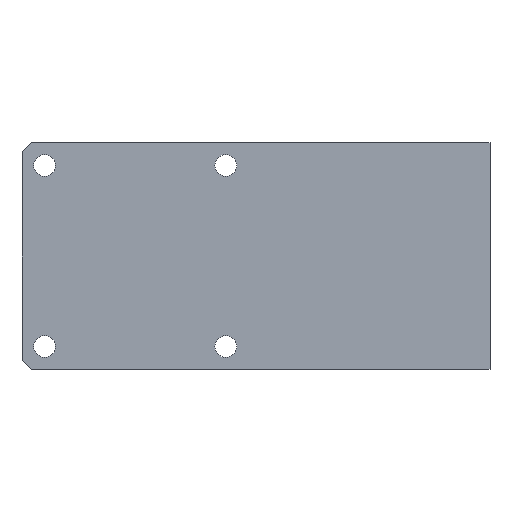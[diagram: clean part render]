
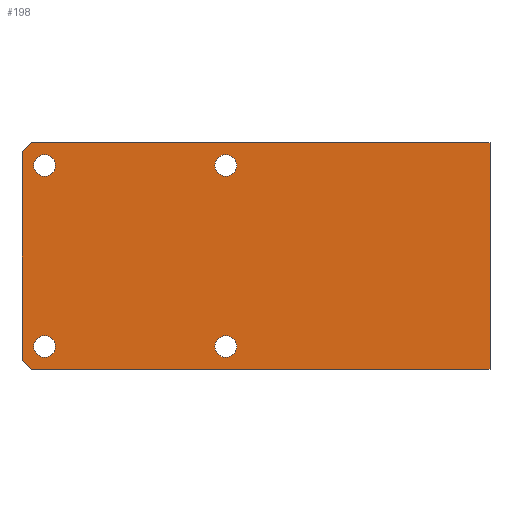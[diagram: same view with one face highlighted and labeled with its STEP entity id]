
A CAD part, front view. The second image highlights one B-rep face of the part: STEP entity #198.
In plain terms, the highlighted planar face has unit normal (0, -1, 0).
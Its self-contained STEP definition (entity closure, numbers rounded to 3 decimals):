
#25 = VECTOR ( 'NONE', #286, 1000. ) ;
#31 = CARTESIAN_POINT ( 'NONE',  ( 0., 0., 12.5 ) ) ;
#37 = CARTESIAN_POINT ( 'NONE',  ( 0., 0., 12.5 ) ) ;
#40 = CARTESIAN_POINT ( 'NONE',  ( 0., 0., -12.5 ) ) ;
#49 = CARTESIAN_POINT ( 'NONE',  ( -37.84, 0., -25.34 ) ) ;
#57 = ORIENTED_EDGE ( 'NONE', *, *, #639, .T. ) ;
#60 = ORIENTED_EDGE ( 'NONE', *, *, #317, .T. ) ;
#69 = ORIENTED_EDGE ( 'NONE', *, *, #498, .T. ) ;
#71 = DIRECTION ( 'NONE',  ( -1., 0., 0. ) ) ;
#75 = VERTEX_POINT ( 'NONE', #439 ) ;
#86 = VECTOR ( 'NONE', #71, 1000. ) ;
#88 = VERTEX_POINT ( 'NONE', #734 ) ;
#93 = CARTESIAN_POINT ( 'NONE',  ( 0., 0., -12.5 ) ) ;
#97 = CARTESIAN_POINT ( 'NONE',  ( -51.68, 0., 12.5 ) ) ;
#120 = DIRECTION ( 'NONE',  ( 0., 0., 1. ) ) ;
#121 = CARTESIAN_POINT ( 'NONE',  ( -49.18, 0., 11.2 ) ) ;
#122 = FACE_BOUND ( 'NONE', #1035, .T. ) ;
#125 = LINE ( 'NONE', #40, #672 ) ;
#132 = DIRECTION ( 'NONE',  ( 1., 0., 0. ) ) ;
#147 = DIRECTION ( 'NONE',  ( 0., 1., 0. ) ) ;
#152 = ORIENTED_EDGE ( 'NONE', *, *, #158, .F. ) ;
#158 = EDGE_CURVE ( 'NONE', #624, #321, #622, .T. ) ;
#174 = CIRCLE ( 'NONE', #312, 1.2 ) ;
#179 = DIRECTION ( 'NONE',  ( 0., 1., 0. ) ) ;
#198 = ADVANCED_FACE ( 'NONE', ( #861, #122, #543, #456, #870 ), #698, .T. ) ;
#213 = ORIENTED_EDGE ( 'NONE', *, *, #992, .T. ) ;
#216 = CARTESIAN_POINT ( 'NONE',  ( -51.68, 0., 11.5 ) ) ;
#219 = ORIENTED_EDGE ( 'NONE', *, *, #738, .T. ) ;
#228 = DIRECTION ( 'NONE',  ( 0., 1., 0. ) ) ;
#232 = DIRECTION ( 'NONE',  ( 0., 0., 1. ) ) ;
#236 = ORIENTED_EDGE ( 'NONE', *, *, #249, .T. ) ;
#244 = AXIS2_PLACEMENT_3D ( 'NONE', #706, #256, #578 ) ;
#249 = EDGE_CURVE ( 'NONE', #1043, #491, #329, .T. ) ;
#252 = CARTESIAN_POINT ( 'NONE',  ( 0., 0., 12.5 ) ) ;
#256 = DIRECTION ( 'NONE',  ( 0., 1., 0. ) ) ;
#257 = EDGE_LOOP ( 'NONE', ( #356, #69, #981, #567, #487, #152 ) ) ;
#262 = CARTESIAN_POINT ( 'NONE',  ( -50.68, 0., -12.5 ) ) ;
#281 = CARTESIAN_POINT ( 'NONE',  ( -29.18, 0., 11.2 ) ) ;
#286 = DIRECTION ( 'NONE',  ( -0.707, 0., -0.707 ) ) ;
#289 = CARTESIAN_POINT ( 'NONE',  ( -29.18, 0., 10. ) ) ;
#292 = CIRCLE ( 'NONE', #244, 1.2 ) ;
#295 = CARTESIAN_POINT ( 'NONE',  ( -29.18, 0., -10. ) ) ;
#296 = DIRECTION ( 'NONE',  ( 0.707, 0., -0.707 ) ) ;
#301 = LINE ( 'NONE', #49, #841 ) ;
#307 = VERTEX_POINT ( 'NONE', #262 ) ;
#312 = AXIS2_PLACEMENT_3D ( 'NONE', #295, #788, #783 ) ;
#317 = EDGE_CURVE ( 'NONE', #75, #512, #621, .T. ) ;
#318 = CARTESIAN_POINT ( 'NONE',  ( -29.18, 0., -11.2 ) ) ;
#321 = VERTEX_POINT ( 'NONE', #93 ) ;
#329 = CIRCLE ( 'NONE', #484, 1.2 ) ;
#331 = AXIS2_PLACEMENT_3D ( 'NONE', #681, #1038, #1044 ) ;
#347 = AXIS2_PLACEMENT_3D ( 'NONE', #635, #228, #466 ) ;
#350 = CIRCLE ( 'NONE', #451, 1.2 ) ;
#356 = ORIENTED_EDGE ( 'NONE', *, *, #768, .T. ) ;
#365 = CIRCLE ( 'NONE', #657, 1.2 ) ;
#372 = LINE ( 'NONE', #688, #25 ) ;
#373 = DIRECTION ( 'NONE',  ( 0., -1., 0. ) ) ;
#382 = CIRCLE ( 'NONE', #347, 1.2 ) ;
#387 = EDGE_CURVE ( 'NONE', #676, #502, #292, .T. ) ;
#412 = VERTEX_POINT ( 'NONE', #1050 ) ;
#421 = CARTESIAN_POINT ( 'NONE',  ( -49.18, 0., -8.8 ) ) ;
#439 = CARTESIAN_POINT ( 'NONE',  ( -49.18, 0., 8.8 ) ) ;
#448 = DIRECTION ( 'NONE',  ( 0., 0., -1. ) ) ;
#451 = AXIS2_PLACEMENT_3D ( 'NONE', #564, #147, #232 ) ;
#452 = CARTESIAN_POINT ( 'NONE',  ( -51.68, 0., -11.5 ) ) ;
#456 = FACE_BOUND ( 'NONE', #888, .T. ) ;
#466 = DIRECTION ( 'NONE',  ( 0., 0., 1. ) ) ;
#484 = AXIS2_PLACEMENT_3D ( 'NONE', #668, #603, #987 ) ;
#487 = ORIENTED_EDGE ( 'NONE', *, *, #677, .F. ) ;
#491 = VERTEX_POINT ( 'NONE', #421 ) ;
#498 = EDGE_CURVE ( 'NONE', #88, #707, #372, .T. ) ;
#502 = VERTEX_POINT ( 'NONE', #767 ) ;
#511 = DIRECTION ( 'NONE',  ( 0., 0., 1. ) ) ;
#512 = VERTEX_POINT ( 'NONE', #121 ) ;
#531 = DIRECTION ( 'NONE',  ( 0., 0., -1. ) ) ;
#540 = CIRCLE ( 'NONE', #331, 1.2 ) ;
#543 = FACE_BOUND ( 'NONE', #751, .T. ) ;
#564 = CARTESIAN_POINT ( 'NONE',  ( -29.18, 0., 10. ) ) ;
#567 = ORIENTED_EDGE ( 'NONE', *, *, #653, .T. ) ;
#571 = EDGE_CURVE ( 'NONE', #707, #866, #1000, .T. ) ;
#573 = AXIS2_PLACEMENT_3D ( 'NONE', #912, #179, #511 ) ;
#578 = DIRECTION ( 'NONE',  ( 0., 0., 1. ) ) ;
#603 = DIRECTION ( 'NONE',  ( 0., 1., 0. ) ) ;
#604 = VECTOR ( 'NONE', #531, 1000. ) ;
#621 = CIRCLE ( 'NONE', #573, 1.2 ) ;
#622 = LINE ( 'NONE', #31, #853 ) ;
#624 = VERTEX_POINT ( 'NONE', #759 ) ;
#635 = CARTESIAN_POINT ( 'NONE',  ( -49.18, 0., 10. ) ) ;
#639 = EDGE_CURVE ( 'NONE', #491, #1043, #540, .T. ) ;
#653 = EDGE_CURVE ( 'NONE', #866, #307, #301, .T. ) ;
#657 = AXIS2_PLACEMENT_3D ( 'NONE', #289, #932, #120 ) ;
#668 = CARTESIAN_POINT ( 'NONE',  ( -49.18, 0., -10. ) ) ;
#672 = VECTOR ( 'NONE', #702, 1000. ) ;
#676 = VERTEX_POINT ( 'NONE', #318 ) ;
#677 = EDGE_CURVE ( 'NONE', #321, #307, #125, .T. ) ;
#681 = CARTESIAN_POINT ( 'NONE',  ( -49.18, 0., -10. ) ) ;
#684 = AXIS2_PLACEMENT_3D ( 'NONE', #37, #373, #132 ) ;
#688 = CARTESIAN_POINT ( 'NONE',  ( -25.34, 0., 37.84 ) ) ;
#698 = PLANE ( 'NONE',  #684 ) ;
#702 = DIRECTION ( 'NONE',  ( -1., 0., 0. ) ) ;
#706 = CARTESIAN_POINT ( 'NONE',  ( -29.18, 0., -10. ) ) ;
#707 = VERTEX_POINT ( 'NONE', #216 ) ;
#734 = CARTESIAN_POINT ( 'NONE',  ( -50.68, 0., 12.5 ) ) ;
#738 = EDGE_CURVE ( 'NONE', #512, #75, #382, .T. ) ;
#751 = EDGE_LOOP ( 'NONE', ( #57, #236 ) ) ;
#756 = ORIENTED_EDGE ( 'NONE', *, *, #1064, .T. ) ;
#759 = CARTESIAN_POINT ( 'NONE',  ( 0., 0., 12.5 ) ) ;
#767 = CARTESIAN_POINT ( 'NONE',  ( -29.18, 0., -8.8 ) ) ;
#768 = EDGE_CURVE ( 'NONE', #624, #88, #978, .T. ) ;
#772 = CARTESIAN_POINT ( 'NONE',  ( -49.18, 0., -11.2 ) ) ;
#783 = DIRECTION ( 'NONE',  ( 0., 0., 1. ) ) ;
#788 = DIRECTION ( 'NONE',  ( 0., 1., 0. ) ) ;
#841 = VECTOR ( 'NONE', #296, 1000. ) ;
#853 = VECTOR ( 'NONE', #448, 1000. ) ;
#861 = FACE_BOUND ( 'NONE', #878, .T. ) ;
#866 = VERTEX_POINT ( 'NONE', #452 ) ;
#870 = FACE_OUTER_BOUND ( 'NONE', #257, .T. ) ;
#878 = EDGE_LOOP ( 'NONE', ( #995, #756 ) ) ;
#888 = EDGE_LOOP ( 'NONE', ( #213, #1052 ) ) ;
#912 = CARTESIAN_POINT ( 'NONE',  ( -49.18, 0., 10. ) ) ;
#932 = DIRECTION ( 'NONE',  ( 0., 1., 0. ) ) ;
#939 = EDGE_CURVE ( 'NONE', #1034, #412, #365, .T. ) ;
#978 = LINE ( 'NONE', #252, #86 ) ;
#981 = ORIENTED_EDGE ( 'NONE', *, *, #571, .T. ) ;
#987 = DIRECTION ( 'NONE',  ( 0., 0., 1. ) ) ;
#992 = EDGE_CURVE ( 'NONE', #502, #676, #174, .T. ) ;
#995 = ORIENTED_EDGE ( 'NONE', *, *, #939, .T. ) ;
#1000 = LINE ( 'NONE', #97, #604 ) ;
#1034 = VERTEX_POINT ( 'NONE', #281 ) ;
#1035 = EDGE_LOOP ( 'NONE', ( #219, #60 ) ) ;
#1038 = DIRECTION ( 'NONE',  ( 0., 1., 0. ) ) ;
#1043 = VERTEX_POINT ( 'NONE', #772 ) ;
#1044 = DIRECTION ( 'NONE',  ( 0., 0., 1. ) ) ;
#1050 = CARTESIAN_POINT ( 'NONE',  ( -29.18, 0., 8.8 ) ) ;
#1052 = ORIENTED_EDGE ( 'NONE', *, *, #387, .T. ) ;
#1064 = EDGE_CURVE ( 'NONE', #412, #1034, #350, .T. ) ;
